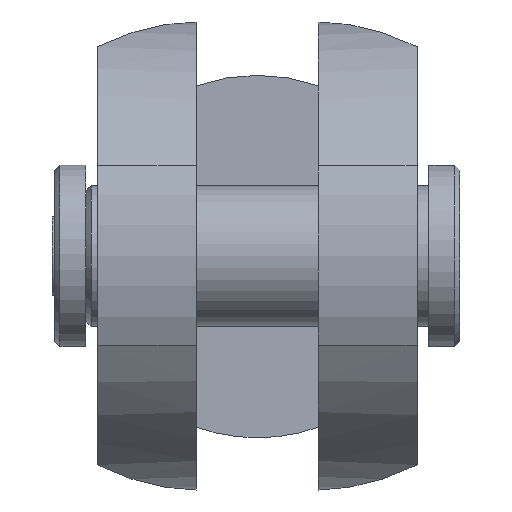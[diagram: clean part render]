
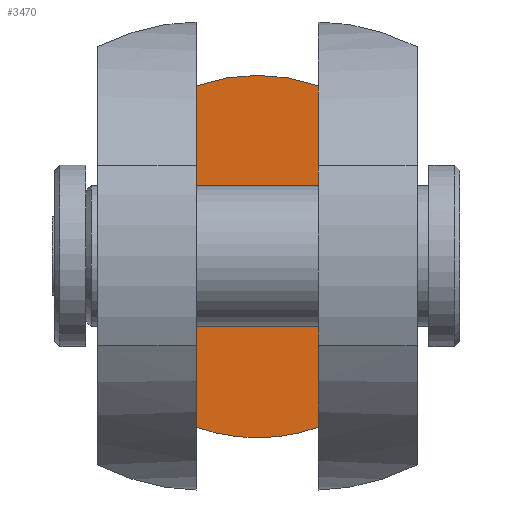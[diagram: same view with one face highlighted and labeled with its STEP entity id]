
A CAD part, top view. The second image highlights one B-rep face of the part: STEP entity #3470.
In plain terms, the highlighted planar face has unit normal (0, 0, 1).
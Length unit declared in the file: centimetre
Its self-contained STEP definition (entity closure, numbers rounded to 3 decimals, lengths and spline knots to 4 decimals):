
#366=LINE('',#5640,#714);
#367=LINE('',#5642,#715);
#714=VECTOR('',#4359,6.5691);
#715=VECTOR('',#4362,6.5691);
#1016=FACE_OUTER_BOUND('',#1224,.T.);
#1224=EDGE_LOOP('',(#2897,#2898,#2899,#2900));
#1287=CIRCLE('',#3516,3.4884);
#1288=CIRCLE('',#3517,3.4884);
#1335=VERTEX_POINT('',#4519);
#1336=VERTEX_POINT('',#4523);
#1341=VERTEX_POINT('',#4555);
#1342=VERTEX_POINT('',#4559);
#1646=EDGE_CURVE('',#1335,#1336,#1287,.T.);
#1652=EDGE_CURVE('',#1341,#1342,#1288,.T.);
#2047=EDGE_CURVE('',#1342,#1335,#366,.T.);
#2048=EDGE_CURVE('',#1341,#1336,#367,.T.);
#2897=ORIENTED_EDGE('',*,*,#1652,.F.);
#2898=ORIENTED_EDGE('',*,*,#2048,.T.);
#2899=ORIENTED_EDGE('',*,*,#1646,.F.);
#2900=ORIENTED_EDGE('',*,*,#2047,.F.);
#3113=PLANE('',#3661);
#3470=ADVANCED_FACE('',(#1016),#3113,.F.);
#3516=AXIS2_PLACEMENT_3D('',#4524,#3735,#3736);
#3517=AXIS2_PLACEMENT_3D('',#4560,#3737,#3738);
#3661=AXIS2_PLACEMENT_3D('',#5641,#4360,#4361);
#3735=DIRECTION('center_axis',(0.,0.,
-1.));
#3736=DIRECTION('ref_axis',(0.,-1.,0.));
#3737=DIRECTION('center_axis',(0.,0.,
-1.));
#3738=DIRECTION('ref_axis',(0.,-1.,0.));
#4359=DIRECTION('',(0.,1.,0.));
#4360=DIRECTION('center_axis',(0.,0.,
-1.));
#4361=DIRECTION('ref_axis',(-1.,0.,0.));
#4362=DIRECTION('',(0.,1.,0.));
#4519=CARTESIAN_POINT('',(-1.175,3.2846,-6.));
#4523=CARTESIAN_POINT('',(1.175,3.2846,-6.));
#4524=CARTESIAN_POINT('Origin',(0.,0.,
-6.));
#4555=CARTESIAN_POINT('',(1.175,-3.2846,-6.));
#4559=CARTESIAN_POINT('',(-1.175,-3.2846,-6.));
#4560=CARTESIAN_POINT('Origin',(0.,0.,
-6.));
#5640=CARTESIAN_POINT('',(-1.175,0.,-6.));
#5641=CARTESIAN_POINT('Origin',(1.175,0.,-6.));
#5642=CARTESIAN_POINT('',(1.175,0.,-6.));
